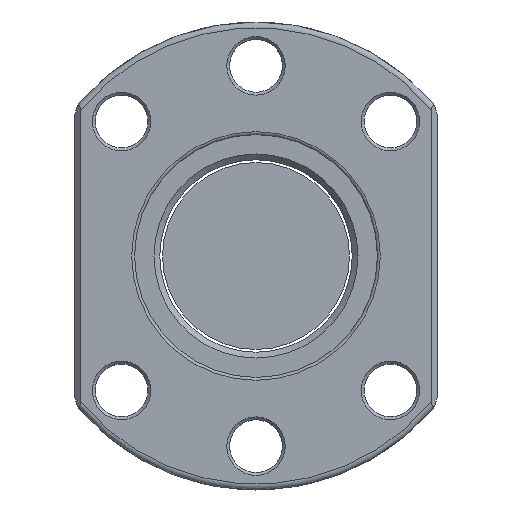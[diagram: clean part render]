
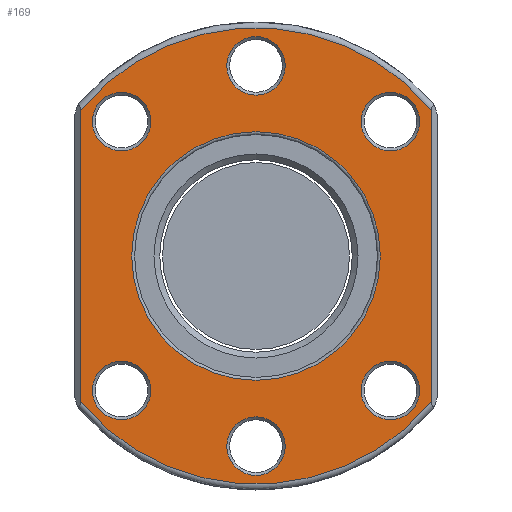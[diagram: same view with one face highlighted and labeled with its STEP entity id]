
A CAD part, front view. The second image highlights one B-rep face of the part: STEP entity #169.
In plain terms, the highlighted planar face has unit normal (0, -1, 0).
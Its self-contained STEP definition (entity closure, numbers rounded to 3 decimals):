
#60=LINE('',#1137,#84);
#61=LINE('',#1141,#85);
#84=VECTOR('',#920,1.);
#85=VECTOR('',#923,1.);
#132=PLANE('',#802);
#169=ADVANCED_FACE('',(#234,#235,#236,#237,#238,#239,#240,#241),#132,.T.);
#234=FACE_BOUND('',#314,.T.);
#235=FACE_BOUND('',#315,.T.);
#236=FACE_BOUND('',#316,.T.);
#237=FACE_BOUND('',#317,.T.);
#238=FACE_BOUND('',#318,.T.);
#239=FACE_BOUND('',#319,.T.);
#240=FACE_BOUND('',#320,.T.);
#241=FACE_BOUND('',#321,.T.);
#314=EDGE_LOOP('',(#410));
#315=EDGE_LOOP('',(#411));
#316=EDGE_LOOP('',(#412));
#317=EDGE_LOOP('',(#413));
#318=EDGE_LOOP('',(#414));
#319=EDGE_LOOP('',(#415));
#320=EDGE_LOOP('',(#416));
#321=EDGE_LOOP('',(#417,#418,#419,#420));
#410=ORIENTED_EDGE('',*,*,#653,.T.);
#411=ORIENTED_EDGE('',*,*,#654,.T.);
#412=ORIENTED_EDGE('',*,*,#655,.T.);
#413=ORIENTED_EDGE('',*,*,#656,.T.);
#414=ORIENTED_EDGE('',*,*,#657,.T.);
#415=ORIENTED_EDGE('',*,*,#658,.T.);
#416=ORIENTED_EDGE('',*,*,#659,.T.);
#417=ORIENTED_EDGE('',*,*,#660,.T.);
#418=ORIENTED_EDGE('',*,*,#661,.T.);
#419=ORIENTED_EDGE('',*,*,#662,.T.);
#420=ORIENTED_EDGE('',*,*,#663,.T.);
#582=VERTEX_POINT('',#1121);
#583=VERTEX_POINT('',#1123);
#584=VERTEX_POINT('',#1125);
#585=VERTEX_POINT('',#1127);
#586=VERTEX_POINT('',#1129);
#587=VERTEX_POINT('',#1131);
#588=VERTEX_POINT('',#1133);
#589=VERTEX_POINT('',#1135);
#590=VERTEX_POINT('',#1136);
#591=VERTEX_POINT('',#1138);
#592=VERTEX_POINT('',#1140);
#653=EDGE_CURVE('',#582,#582,#740,.T.);
#654=EDGE_CURVE('',#583,#583,#741,.T.);
#655=EDGE_CURVE('',#584,#584,#742,.T.);
#656=EDGE_CURVE('',#585,#585,#743,.T.);
#657=EDGE_CURVE('',#586,#586,#744,.T.);
#658=EDGE_CURVE('',#587,#587,#745,.T.);
#659=EDGE_CURVE('',#588,#588,#746,.T.);
#660=EDGE_CURVE('',#589,#590,#747,.T.);
#661=EDGE_CURVE('',#590,#591,#60,.T.);
#662=EDGE_CURVE('',#591,#592,#748,.T.);
#663=EDGE_CURVE('',#592,#589,#61,.T.);
#740=CIRCLE('',#793,21.25);
#741=CIRCLE('',#794,5.);
#742=CIRCLE('',#795,5.);
#743=CIRCLE('',#796,5.);
#744=CIRCLE('',#797,5.);
#745=CIRCLE('',#798,5.);
#746=CIRCLE('',#799,5.);
#747=CIRCLE('',#800,39.);
#748=CIRCLE('',#801,39.);
#793=AXIS2_PLACEMENT_3D('',#1120,#904,#905);
#794=AXIS2_PLACEMENT_3D('',#1122,#906,#907);
#795=AXIS2_PLACEMENT_3D('',#1124,#908,#909);
#796=AXIS2_PLACEMENT_3D('',#1126,#910,#911);
#797=AXIS2_PLACEMENT_3D('',#1128,#912,#913);
#798=AXIS2_PLACEMENT_3D('',#1130,#914,#915);
#799=AXIS2_PLACEMENT_3D('',#1132,#916,#917);
#800=AXIS2_PLACEMENT_3D('',#1134,#918,#919);
#801=AXIS2_PLACEMENT_3D('',#1139,#921,#922);
#802=AXIS2_PLACEMENT_3D('',#1142,#924,#925);
#904=DIRECTION('',(0.,1.,0.));
#905=DIRECTION('',(0.,0.,-1.));
#906=DIRECTION('',(0.,1.,0.));
#907=DIRECTION('',(0.,0.,-1.));
#908=DIRECTION('',(0.,1.,0.));
#909=DIRECTION('',(0.,0.,-1.));
#910=DIRECTION('',(0.,1.,0.));
#911=DIRECTION('',(0.,0.,-1.));
#912=DIRECTION('',(0.,1.,0.));
#913=DIRECTION('',(0.,0.,-1.));
#914=DIRECTION('',(0.,1.,0.));
#915=DIRECTION('',(0.,0.,-1.));
#916=DIRECTION('',(0.,1.,0.));
#917=DIRECTION('',(0.,0.,-1.));
#918=DIRECTION('',(0.,-1.,0.));
#919=DIRECTION('',(0.,0.,-1.));
#920=DIRECTION('',(0.,0.,-1.));
#921=DIRECTION('',(0.,-1.,0.));
#922=DIRECTION('',(0.,0.,-1.));
#923=DIRECTION('',(0.,0.,1.));
#924=DIRECTION('',(0.,-1.,0.));
#925=DIRECTION('',(0.,0.,-1.));
#1120=CARTESIAN_POINT('',(0.,0.,0.));
#1121=CARTESIAN_POINT('',(0.,0.,-21.25));
#1122=CARTESIAN_POINT('',(0.,0.,-32.5));
#1123=CARTESIAN_POINT('',(0.,0.,-37.5));
#1124=CARTESIAN_POINT('',(0.,0.,32.5));
#1125=CARTESIAN_POINT('',(0.,0.,27.5));
#1126=CARTESIAN_POINT('',(22.981,0.,-22.981));
#1127=CARTESIAN_POINT('',(22.981,0.,-27.981));
#1128=CARTESIAN_POINT('',(-22.981,0.,22.981));
#1129=CARTESIAN_POINT('',(-22.981,0.,17.981));
#1130=CARTESIAN_POINT('',(22.981,0.,22.981));
#1131=CARTESIAN_POINT('',(22.981,0.,17.981));
#1132=CARTESIAN_POINT('',(-22.981,0.,-22.981));
#1133=CARTESIAN_POINT('',(-22.981,0.,-27.981));
#1134=CARTESIAN_POINT('',(0.,0.,0.));
#1135=CARTESIAN_POINT('',(30.,0.,24.92));
#1136=CARTESIAN_POINT('',(-30.,0.,24.92));
#1137=CARTESIAN_POINT('',(-30.,0.,-23.664));
#1138=CARTESIAN_POINT('',(-30.,0.,-24.92));
#1139=CARTESIAN_POINT('',(0.,0.,0.));
#1140=CARTESIAN_POINT('',(30.,0.,-24.92));
#1141=CARTESIAN_POINT('',(30.,0.,23.664));
#1142=CARTESIAN_POINT('',(0.,0.,0.));
